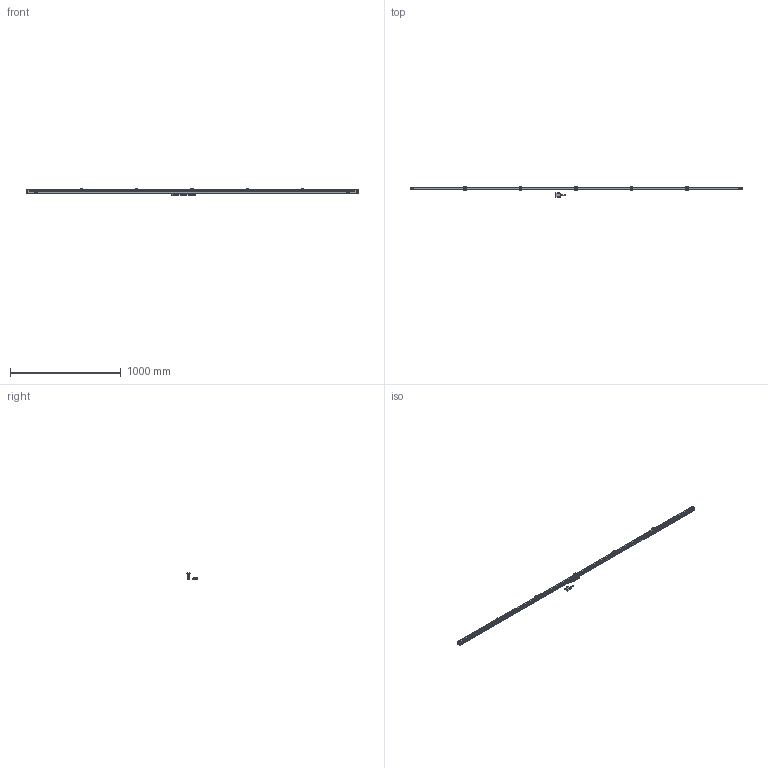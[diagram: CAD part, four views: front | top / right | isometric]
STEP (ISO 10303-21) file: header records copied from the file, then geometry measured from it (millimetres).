
FILE_DESCRIPTION(('Creo Elements/Direct Modeling STEP Export'),'2;1');
FILE_NAME('AT715-2800_営業送付.stp','2018-12-20T15:39:40',(''),(''),'Creo Elements/Direct Modeling STEP processor for AP214 (Solid Model)','Creo Elements/Direct Modeling 18.1B 29-Sep-2012 (C) Parametric Technology GmbH','');
FILE_SCHEMA(('AUTOMOTIVE_DESIGN { 1 0 10303 214 1 1 1 1 }'));
Length unit declared in the file: millimetre
Products named in the file (6): Scale_2800_1; Connector; DetectorHead; Scale_2800_3; Scale_2800_2; AT715-2800
Assembly tree (5 placements, depth 2):
  AT715-2800
    Scale_2800_2
    Scale_2800_3
    DetectorHead
    Connector
    Scale_2800_1
Bounding box: 2998 x 99 x 68.35 mm (x, y, z)
Volume: 6421981.2 mm3; surface area: 1323003.2 mm2
Topology: 5 solids, 10 shells, 2625 faces, 6833 edges, 4277 vertices
Faces by surface type: plane 1619, cylinder 656, extrusion 160, cone 156, torus 18, sphere 12, bspline 4
Entity records: 80431 total; most frequent: CARTESIAN_POINT 17258, ORIENTED_EDGE 13642, DIRECTION 11927, EDGE_CURVE 6821, VECTOR 4459, LINE 4299, VERTEX_POINT 4277, AXIS2_PLACEMENT_3D 3734
